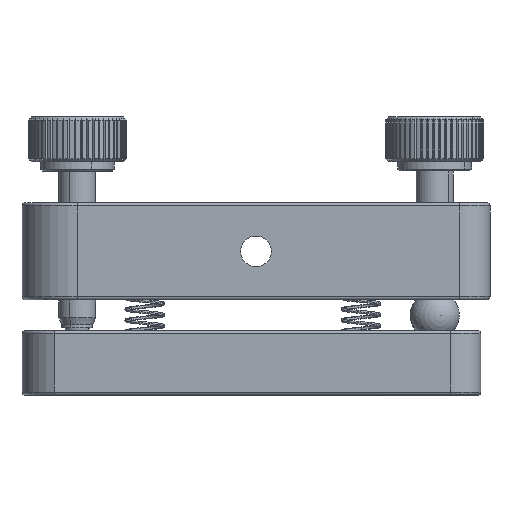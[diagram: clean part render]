
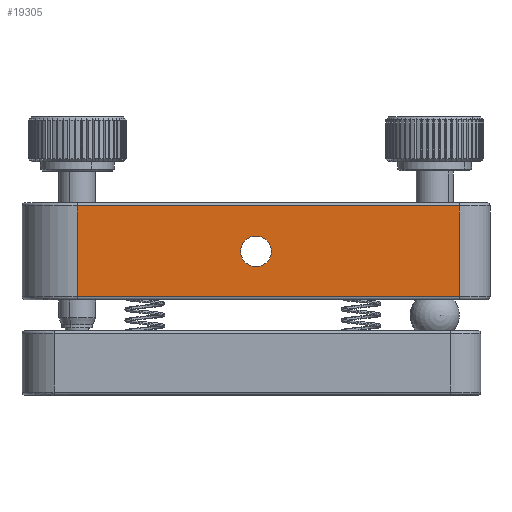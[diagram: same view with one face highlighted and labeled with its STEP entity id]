
A CAD part, left-side view. The second image highlights one B-rep face of the part: STEP entity #19305.
In plain terms, the highlighted planar face has unit normal (-1, 0, 0).
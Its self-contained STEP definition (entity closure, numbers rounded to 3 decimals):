
#797 = PLANE ( 'NONE',  #23167 ) ;
#919 = CARTESIAN_POINT ( 'NONE',  ( -47.887, 16.35, 67.795 ) ) ;
#992 = DIRECTION ( 'NONE',  ( 0., 1., 0. ) ) ;
#1560 = CARTESIAN_POINT ( 'NONE',  ( -47.887, -12.75, 59.895 ) ) ;
#2995 = ORIENTED_EDGE ( 'NONE', *, *, #12493, .T. ) ;
#4047 = DIRECTION ( 'NONE',  ( 0., 1., 0. ) ) ;
#4296 = CIRCLE ( 'NONE', #8960, 2.5 ) ;
#5068 = VECTOR ( 'NONE', #4047, 1000. ) ;
#5741 = AXIS2_PLACEMENT_3D ( 'NONE', #14920, #26171, #992 ) ;
#7887 = DIRECTION ( 'NONE',  ( 0., -1., 0. ) ) ;
#7948 = ORIENTED_EDGE ( 'NONE', *, *, #29412, .T. ) ;
#7970 = CARTESIAN_POINT ( 'NONE',  ( -47.887, 16.35, 52.495 ) ) ;
#8722 = EDGE_CURVE ( 'NONE', #17434, #35461, #26098, .T. ) ;
#8739 = CARTESIAN_POINT ( 'NONE',  ( -47.887, -45.85, 67.795 ) ) ;
#8960 = AXIS2_PLACEMENT_3D ( 'NONE', #1560, #12724, #23970 ) ;
#9624 = CARTESIAN_POINT ( 'NONE',  ( -47.887, -45.85, 67.295 ) ) ;
#10467 = VECTOR ( 'NONE', #7887, 1000. ) ;
#11590 = EDGE_LOOP ( 'NONE', ( #7948, #25915 ) ) ;
#11987 = CARTESIAN_POINT ( 'NONE',  ( -47.887, -45.85, 67.795 ) ) ;
#12105 = DIRECTION ( 'NONE',  ( 0., 0., -1. ) ) ;
#12493 = EDGE_CURVE ( 'NONE', #35461, #19107, #21864, .T. ) ;
#12574 = VERTEX_POINT ( 'NONE', #22413 ) ;
#12724 = DIRECTION ( 'NONE',  ( 1., 0., 0. ) ) ;
#14719 = FACE_BOUND ( 'NONE', #11590, .T. ) ;
#14920 = CARTESIAN_POINT ( 'NONE',  ( -47.887, -12.75, 59.895 ) ) ;
#15791 = ORIENTED_EDGE ( 'NONE', *, *, #25848, .T. ) ;
#16305 = VERTEX_POINT ( 'NONE', #9624 ) ;
#16715 = VERTEX_POINT ( 'NONE', #36052 ) ;
#17434 = VERTEX_POINT ( 'NONE', #24162 ) ;
#17997 = LINE ( 'NONE', #29223, #5068 ) ;
#18963 = VECTOR ( 'NONE', #19965, 1000. ) ;
#19107 = VERTEX_POINT ( 'NONE', #30771 ) ;
#19305 = ADVANCED_FACE ( 'NONE', ( #14719, #25969 ), #797, .F. ) ;
#19868 = EDGE_CURVE ( 'NONE', #16305, #19107, #33943, .T. ) ;
#19965 = DIRECTION ( 'NONE',  ( 0., 0., -1. ) ) ;
#20341 = VECTOR ( 'NONE', #12105, 1000. ) ;
#20980 = ORIENTED_EDGE ( 'NONE', *, *, #19868, .F. ) ;
#21601 = CIRCLE ( 'NONE', #5741, 2.5 ) ;
#21784 = EDGE_CURVE ( 'NONE', #12574, #16715, #21601, .T. ) ;
#21864 = LINE ( 'NONE', #33083, #10467 ) ;
#22413 = CARTESIAN_POINT ( 'NONE',  ( -47.887, -12.75, 62.395 ) ) ;
#23167 = AXIS2_PLACEMENT_3D ( 'NONE', #11987, #23231, #34437 ) ;
#23231 = DIRECTION ( 'NONE',  ( 1., 0., 0. ) ) ;
#23970 = DIRECTION ( 'NONE',  ( 0., 1., 0. ) ) ;
#24162 = CARTESIAN_POINT ( 'NONE',  ( -47.887, 16.35, 67.295 ) ) ;
#25848 = EDGE_CURVE ( 'NONE', #16305, #17434, #17997, .T. ) ;
#25915 = ORIENTED_EDGE ( 'NONE', *, *, #21784, .T. ) ;
#25969 = FACE_OUTER_BOUND ( 'NONE', #30233, .T. ) ;
#26098 = LINE ( 'NONE', #919, #20341 ) ;
#26171 = DIRECTION ( 'NONE',  ( 1., 0., 0. ) ) ;
#29223 = CARTESIAN_POINT ( 'NONE',  ( -47.887, 16.35, 67.295 ) ) ;
#29412 = EDGE_CURVE ( 'NONE', #16715, #12574, #4296, .T. ) ;
#30233 = EDGE_LOOP ( 'NONE', ( #34077, #2995, #20980, #15791 ) ) ;
#30771 = CARTESIAN_POINT ( 'NONE',  ( -47.887, -45.85, 52.495 ) ) ;
#33083 = CARTESIAN_POINT ( 'NONE',  ( -47.887, -45.85, 52.495 ) ) ;
#33943 = LINE ( 'NONE', #8739, #18963 ) ;
#34077 = ORIENTED_EDGE ( 'NONE', *, *, #8722, .T. ) ;
#34437 = DIRECTION ( 'NONE',  ( 0., 1., 0. ) ) ;
#35461 = VERTEX_POINT ( 'NONE', #7970 ) ;
#36052 = CARTESIAN_POINT ( 'NONE',  ( -47.887, -12.75, 57.395 ) ) ;
